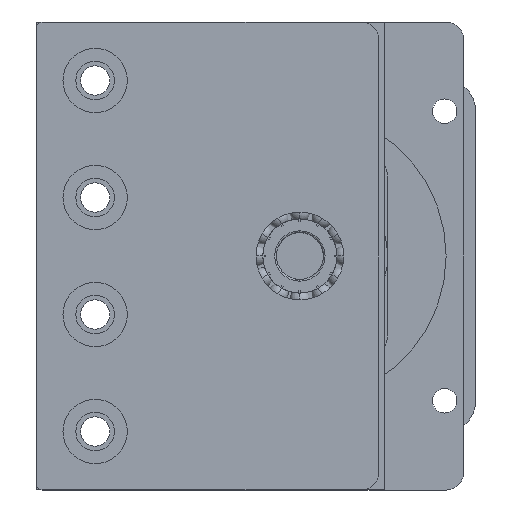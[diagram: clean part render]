
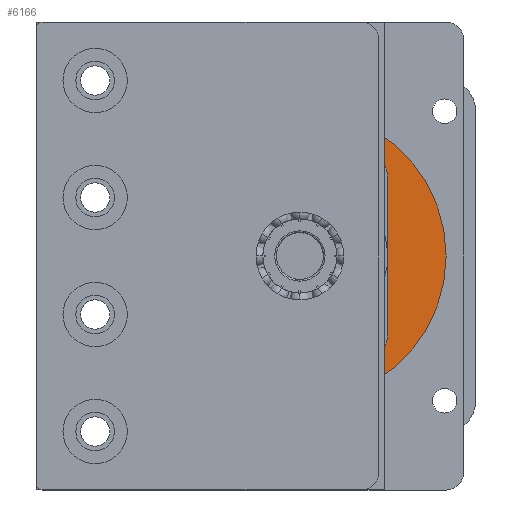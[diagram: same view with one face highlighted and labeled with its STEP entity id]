
A CAD part, front view. The second image highlights one B-rep face of the part: STEP entity #6166.
In plain terms, the highlighted planar face has unit normal (0, -1, 0).
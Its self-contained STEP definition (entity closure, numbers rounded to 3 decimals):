
#325 = ORIENTED_EDGE ( 'NONE', *, *, #22291, .F. ) ;
#648 = CIRCLE ( 'NONE', #16809, 25. ) ;
#2702 = AXIS2_PLACEMENT_3D ( 'NONE', #15089, #15176, #14981 ) ;
#4491 = CARTESIAN_POINT ( 'NONE',  ( 0., -3., -8. ) ) ;
#4655 = AXIS2_PLACEMENT_3D ( 'NONE', #9668, #9532, #9511 ) ;
#5750 = CIRCLE ( 'NONE', #21255, 8. ) ;
#6166 = ADVANCED_FACE ( 'NONE', ( #7453, #7497 ), #22419, .T. ) ;
#7407 = ORIENTED_EDGE ( 'NONE', *, *, #19990, .T. ) ;
#7453 = FACE_BOUND ( 'NONE', #10083, .T. ) ;
#7497 = FACE_OUTER_BOUND ( 'NONE', #17046, .T. ) ;
#8076 = DIRECTION ( 'NONE',  ( 0., 0., -1. ) ) ;
#8094 = DIRECTION ( 'NONE',  ( 0., -1., 0. ) ) ;
#8138 = CARTESIAN_POINT ( 'NONE',  ( 0., -3., 0. ) ) ;
#8527 = VERTEX_POINT ( 'NONE', #15346 ) ;
#9511 = DIRECTION ( 'NONE',  ( 0., 0., -1. ) ) ;
#9532 = DIRECTION ( 'NONE',  ( 0., -1., 0. ) ) ;
#9668 = CARTESIAN_POINT ( 'NONE',  ( 0., -3., 0. ) ) ;
#10083 = EDGE_LOOP ( 'NONE', ( #325, #14413 ) ) ;
#11991 = CARTESIAN_POINT ( 'NONE',  ( 0., -3., 25. ) ) ;
#13848 = EDGE_CURVE ( 'NONE', #22430, #8527, #14962, .T. ) ;
#14413 = ORIENTED_EDGE ( 'NONE', *, *, #13848, .F. ) ;
#14947 = DIRECTION ( 'NONE',  ( 0., 0., -1. ) ) ;
#14962 = CIRCLE ( 'NONE', #4655, 8. ) ;
#14981 = DIRECTION ( 'NONE',  ( 0., 0., -1. ) ) ;
#14982 = DIRECTION ( 'NONE',  ( 0., -1., 0. ) ) ;
#14992 = EDGE_CURVE ( 'NONE', #15652, #15959, #22380, .T. ) ;
#15002 = CARTESIAN_POINT ( 'NONE',  ( 0., -3., 0. ) ) ;
#15089 = CARTESIAN_POINT ( 'NONE',  ( 0., -3., 0. ) ) ;
#15176 = DIRECTION ( 'NONE',  ( 0., -1., 0. ) ) ;
#15346 = CARTESIAN_POINT ( 'NONE',  ( 0., -3., 8. ) ) ;
#15652 = VERTEX_POINT ( 'NONE', #24982 ) ;
#15959 = VERTEX_POINT ( 'NONE', #11991 ) ;
#16809 = AXIS2_PLACEMENT_3D ( 'NONE', #15002, #14982, #14947 ) ;
#17046 = EDGE_LOOP ( 'NONE', ( #7407, #21037 ) ) ;
#18015 = AXIS2_PLACEMENT_3D ( 'NONE', #22830, #22392, #22413 ) ;
#19990 = EDGE_CURVE ( 'NONE', #15959, #15652, #648, .T. ) ;
#21037 = ORIENTED_EDGE ( 'NONE', *, *, #14992, .T. ) ;
#21255 = AXIS2_PLACEMENT_3D ( 'NONE', #8138, #8094, #8076 ) ;
#22291 = EDGE_CURVE ( 'NONE', #8527, #22430, #5750, .T. ) ;
#22380 = CIRCLE ( 'NONE', #2702, 25. ) ;
#22392 = DIRECTION ( 'NONE',  ( 0., -1., 0. ) ) ;
#22413 = DIRECTION ( 'NONE',  ( 0., 0., -1. ) ) ;
#22419 = PLANE ( 'NONE',  #18015 ) ;
#22430 = VERTEX_POINT ( 'NONE', #4491 ) ;
#22830 = CARTESIAN_POINT ( 'NONE',  ( 0., -3., 0. ) ) ;
#24982 = CARTESIAN_POINT ( 'NONE',  ( 0., -3., -25. ) ) ;
